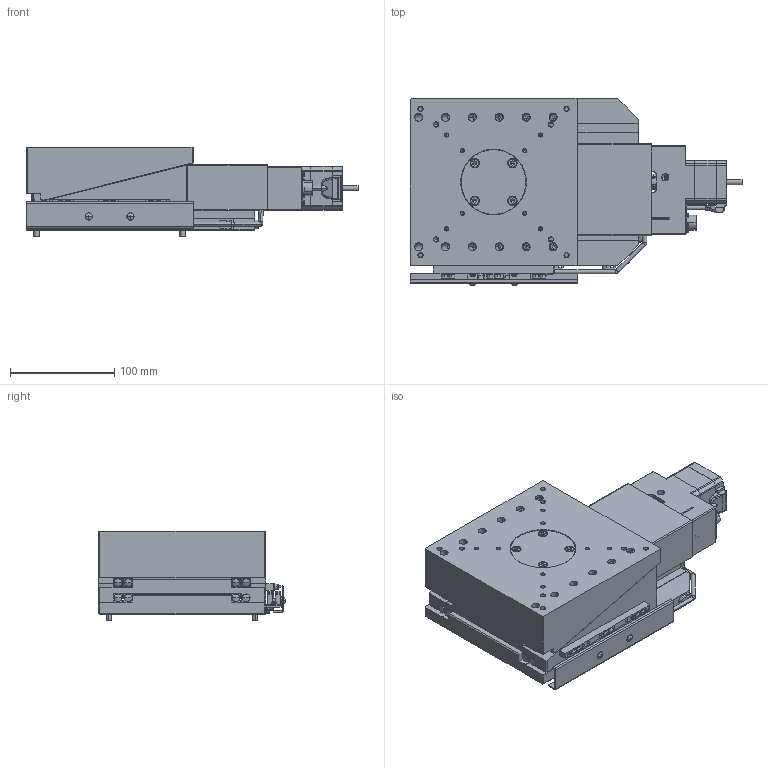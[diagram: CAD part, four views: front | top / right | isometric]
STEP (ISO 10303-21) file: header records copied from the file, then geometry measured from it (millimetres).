
FILE_DESCRIPTION (( 'STEP AP203' ), '1' );
FILE_NAME ('ZA16A-W2C01-R.STEP', '2019-02-25T05:54:14', ( '' ), ( '' ), 'SwSTEP 2.0', 'SolidWorks 2018', '' );
FILE_SCHEMA (( 'CONFIG_CONTROL_DESIGN' ));
Length unit declared in the file: millimetre
Products named in the file (14): bolt-Part-1-3; secound table-Part-1; base; bolt-Part-1-2; bolt-1; bolt-3; secound table-Part-2; secound table; bolt-2; table; bolt-Part-1; bolt; bolt-Part-1-1; ZA16A-W2C01-R
Assembly tree (13 placements, depth 3):
  ZA16A-W2C01-R
    bolt
      bolt-Part-1
    bolt-1
      bolt-Part-1-1
    bolt-2
      bolt-Part-1-2
    bolt-3
      bolt-Part-1-3
    secound table
      secound table-Part-1
      secound table-Part-2
    table
    base
Bounding box: 318 x 179.09 x 86 mm (x, y, z)
Volume: 2329844.3 mm3; surface area: 365756.7 mm2
Topology: 8 solids, 8 shells, 2584 faces, 6204 edges, 3723 vertices
Faces by surface type: plane 1472, cylinder 588, cone 418, torus 48, bspline 36, sphere 22
Entity records: 76285 total; most frequent: CARTESIAN_POINT 14484, DIRECTION 13077, ORIENTED_EDGE 12136, EDGE_CURVE 6068, AXIS2_PLACEMENT_3D 4658, VECTOR 3761, LINE 3761, VERTEX_POINT 3723
